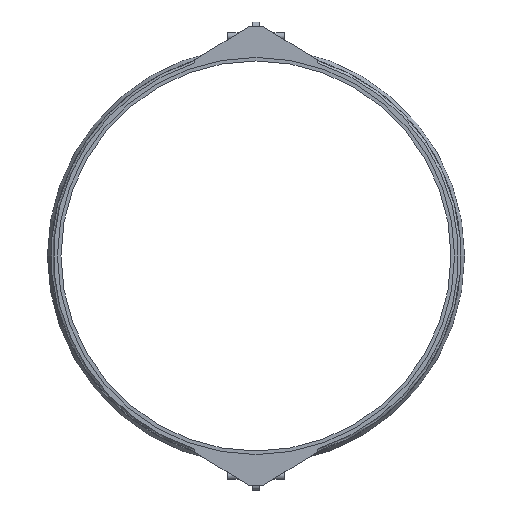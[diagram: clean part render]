
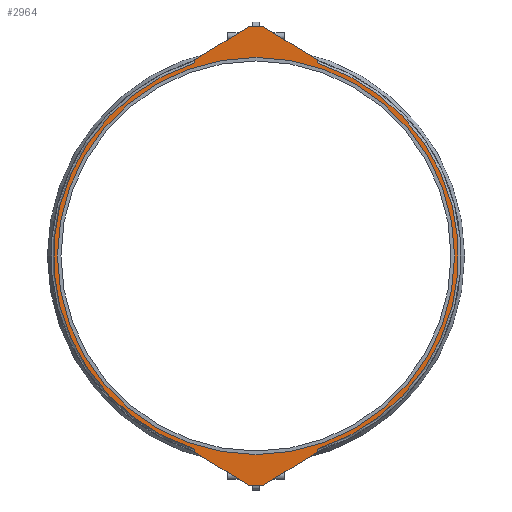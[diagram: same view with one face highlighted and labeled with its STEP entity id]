
A CAD part, left-side view. The second image highlights one B-rep face of the part: STEP entity #2964.
In plain terms, the highlighted planar face has unit normal (-1, 0, 0).
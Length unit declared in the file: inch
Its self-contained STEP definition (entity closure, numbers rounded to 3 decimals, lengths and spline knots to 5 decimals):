
#94=FACE_BOUND('',#530,.T.);
#198=PLANE('',#3249);
#353=FACE_OUTER_BOUND('',#529,.T.);
#529=EDGE_LOOP('',(#2592,#2593,#2594,#2595,#2596,#2597,#2598,#2599,#2600,
#2601,#2602,#2603,#2604,#2605,#2606,#2607,#2608,#2609,#2610,#2611));
#530=EDGE_LOOP('',(#2612,#2613));
#613=LINE('',#4323,#880);
#619=LINE('',#4339,#886);
#622=LINE('',#4349,#889);
#627=LINE('',#4360,#894);
#629=LINE('',#4385,#896);
#743=LINE('',#4844,#1010);
#754=LINE('',#4875,#1021);
#756=LINE('',#4882,#1023);
#760=LINE('',#4891,#1027);
#763=LINE('',#4899,#1030);
#880=VECTOR('',#3469,0.3937);
#886=VECTOR('',#3483,0.3937);
#889=VECTOR('',#3494,0.3937);
#894=VECTOR('',#3505,0.3937);
#896=VECTOR('',#3513,0.3937);
#1010=VECTOR('',#3837,0.3937);
#1021=VECTOR('',#3864,0.3937);
#1023=VECTOR('',#3872,0.3937);
#1027=VECTOR('',#3882,0.3937);
#1030=VECTOR('',#3891,0.3937);
#1085=CIRCLE('',#3048,0.063);
#1087=CIRCLE('',#3052,0.125);
#1088=CIRCLE('',#3055,0.125);
#1089=CIRCLE('',#3058,0.063);
#1092=CIRCLE('',#3064,21.425);
#1093=CIRCLE('',#3066,21.425);
#1135=CIRCLE('',#3174,0.063);
#1136=CIRCLE('',#3177,0.125);
#1137=CIRCLE('',#3180,0.125);
#1138=CIRCLE('',#3183,0.063);
#1173=CIRCLE('',#3247,21.);
#1174=CIRCLE('',#3248,21.);
#1246=VERTEX_POINT('',#4303);
#1247=VERTEX_POINT('',#4322);
#1250=VERTEX_POINT('',#4329);
#1251=VERTEX_POINT('',#4331);
#1253=VERTEX_POINT('',#4337);
#1255=VERTEX_POINT('',#4343);
#1256=VERTEX_POINT('',#4347);
#1258=VERTEX_POINT('',#4354);
#1259=VERTEX_POINT('',#4358);
#1261=VERTEX_POINT('',#4365);
#1264=VERTEX_POINT('',#4393);
#1265=VERTEX_POINT('',#4414);
#1372=VERTEX_POINT('',#4843);
#1384=VERTEX_POINT('',#4873);
#1385=VERTEX_POINT('',#4877);
#1386=VERTEX_POINT('',#4881);
#1387=VERTEX_POINT('',#4885);
#1388=VERTEX_POINT('',#4890);
#1389=VERTEX_POINT('',#4894);
#1390=VERTEX_POINT('',#4898);
#1433=VERTEX_POINT('',#5043);
#1434=VERTEX_POINT('',#5045);
#1537=EDGE_CURVE('',#1246,#1247,#613,.T.);
#1541=EDGE_CURVE('',#1250,#1251,#1085,.T.);
#1545=EDGE_CURVE('',#1253,#1250,#619,.T.);
#1548=EDGE_CURVE('',#1255,#1253,#1087,.T.);
#1550=EDGE_CURVE('',#1256,#1255,#622,.T.);
#1554=EDGE_CURVE('',#1258,#1256,#1088,.T.);
#1556=EDGE_CURVE('',#1259,#1258,#627,.T.);
#1557=EDGE_CURVE('',#1247,#1259,#1089,.T.);
#1560=EDGE_CURVE('',#1251,#1261,#629,.T.);
#1565=EDGE_CURVE('',#1246,#1264,#1092,.T.);
#1566=EDGE_CURVE('',#1265,#1261,#1093,.T.);
#1727=EDGE_CURVE('',#1372,#1265,#743,.T.);
#1743=EDGE_CURVE('',#1264,#1384,#754,.T.);
#1744=EDGE_CURVE('',#1385,#1372,#1135,.T.);
#1746=EDGE_CURVE('',#1386,#1385,#756,.T.);
#1748=EDGE_CURVE('',#1387,#1386,#1136,.T.);
#1751=EDGE_CURVE('',#1388,#1387,#760,.T.);
#1753=EDGE_CURVE('',#1389,#1388,#1137,.T.);
#1755=EDGE_CURVE('',#1390,#1389,#763,.T.);
#1757=EDGE_CURVE('',#1384,#1390,#1138,.T.);
#1826=EDGE_CURVE('',#1434,#1433,#1173,.T.);
#1827=EDGE_CURVE('',#1433,#1434,#1174,.T.);
#2592=ORIENTED_EDGE('',*,*,#1566,.T.);
#2593=ORIENTED_EDGE('',*,*,#1560,.F.);
#2594=ORIENTED_EDGE('',*,*,#1541,.F.);
#2595=ORIENTED_EDGE('',*,*,#1545,.F.);
#2596=ORIENTED_EDGE('',*,*,#1548,.F.);
#2597=ORIENTED_EDGE('',*,*,#1550,.F.);
#2598=ORIENTED_EDGE('',*,*,#1554,.F.);
#2599=ORIENTED_EDGE('',*,*,#1556,.F.);
#2600=ORIENTED_EDGE('',*,*,#1557,.F.);
#2601=ORIENTED_EDGE('',*,*,#1537,.F.);
#2602=ORIENTED_EDGE('',*,*,#1565,.T.);
#2603=ORIENTED_EDGE('',*,*,#1743,.T.);
#2604=ORIENTED_EDGE('',*,*,#1757,.T.);
#2605=ORIENTED_EDGE('',*,*,#1755,.T.);
#2606=ORIENTED_EDGE('',*,*,#1753,.T.);
#2607=ORIENTED_EDGE('',*,*,#1751,.T.);
#2608=ORIENTED_EDGE('',*,*,#1748,.T.);
#2609=ORIENTED_EDGE('',*,*,#1746,.T.);
#2610=ORIENTED_EDGE('',*,*,#1744,.T.);
#2611=ORIENTED_EDGE('',*,*,#1727,.T.);
#2612=ORIENTED_EDGE('',*,*,#1826,.T.);
#2613=ORIENTED_EDGE('',*,*,#1827,.T.);
#2964=ADVANCED_FACE('',(#353,#94),#198,.T.);
#3048=AXIS2_PLACEMENT_3D('',#4332,#3476,#3477);
#3052=AXIS2_PLACEMENT_3D('',#4345,#3489,#3490);
#3055=AXIS2_PLACEMENT_3D('',#4356,#3500,#3501);
#3058=AXIS2_PLACEMENT_3D('',#4362,#3508,#3509);
#3064=AXIS2_PLACEMENT_3D('',#4412,#3523,#3524);
#3066=AXIS2_PLACEMENT_3D('',#4415,#3527,#3528);
#3174=AXIS2_PLACEMENT_3D('',#4878,#3867,#3868);
#3177=AXIS2_PLACEMENT_3D('',#4886,#3876,#3877);
#3180=AXIS2_PLACEMENT_3D('',#4895,#3886,#3887);
#3183=AXIS2_PLACEMENT_3D('',#4902,#3895,#3896);
#3247=AXIS2_PLACEMENT_3D('',#5046,#4056,#4057);
#3248=AXIS2_PLACEMENT_3D('',#5047,#4058,#4059);
#3249=AXIS2_PLACEMENT_3D('',#5048,#4060,#4061);
#3469=DIRECTION('',(0.,0.,-1.));
#3476=DIRECTION('center_axis',(1.,0.,0.));
#3477=DIRECTION('ref_axis',(0.,-1.,0.));
#3483=DIRECTION('',(0.,0.85,0.527));
#3489=DIRECTION('center_axis',(1.,0.,0.));
#3490=DIRECTION('ref_axis',(0.,-0.527,0.85));
#3494=DIRECTION('',(0.,1.,0.));
#3500=DIRECTION('center_axis',(1.,0.,0.));
#3501=DIRECTION('ref_axis',(0.,0.,1.));
#3505=DIRECTION('',(0.,0.85,-0.527));
#3508=DIRECTION('center_axis',(1.,0.,0.));
#3509=DIRECTION('ref_axis',(0.,0.527,0.85));
#3513=DIRECTION('',(0.,0.,1.));
#3523=DIRECTION('center_axis',(-1.,0.,0.));
#3524=DIRECTION('ref_axis',(0.,0.,1.));
#3527=DIRECTION('center_axis',(-1.,0.,0.));
#3528=DIRECTION('ref_axis',(0.,0.,1.));
#3837=DIRECTION('',(0.,0.,-1.));
#3864=DIRECTION('',(0.,0.,1.));
#3867=DIRECTION('center_axis',(-1.,0.,0.));
#3868=DIRECTION('ref_axis',(0.,-1.,0.));
#3872=DIRECTION('',(0.,0.85,-0.527));
#3876=DIRECTION('center_axis',(-1.,0.,0.));
#3877=DIRECTION('ref_axis',(0.,-0.527,-0.85));
#3882=DIRECTION('',(0.,1.,0.));
#3886=DIRECTION('center_axis',(-1.,0.,0.));
#3887=DIRECTION('ref_axis',(0.,0.,-1.));
#3891=DIRECTION('',(0.,0.85,0.527));
#3895=DIRECTION('center_axis',(-1.,0.,0.));
#3896=DIRECTION('ref_axis',(0.,0.527,-0.85));
#4056=DIRECTION('center_axis',(1.,0.,0.));
#4057=DIRECTION('ref_axis',(0.,0.,-1.));
#4058=DIRECTION('center_axis',(1.,0.,0.));
#4059=DIRECTION('ref_axis',(0.,0.,-1.));
#4060=DIRECTION('center_axis',(-1.,0.,0.));
#4061=DIRECTION('ref_axis',(0.,0.,1.));
#4303=CARTESIAN_POINT('',(-3.25,-6.5,-20.41521));
#4322=CARTESIAN_POINT('',(-3.25,-6.5,-20.68014));
#4323=CARTESIAN_POINT('',(-3.25,-6.5,-20.41521));
#4329=CARTESIAN_POINT('',(-3.25,6.4702,-20.73368));
#4331=CARTESIAN_POINT('',(-3.25,6.5,-20.68014));
#4332=CARTESIAN_POINT('Origin',(-3.25,6.437,-20.68014));
#4337=CARTESIAN_POINT('',(-3.25,0.83027,-24.23123));
#4339=CARTESIAN_POINT('',(-3.25,0.83027,-24.23123));
#4343=CARTESIAN_POINT('',(-3.25,0.76439,-24.25));
#4345=CARTESIAN_POINT('Origin',(-3.25,0.76439,-24.125));
#4347=CARTESIAN_POINT('',(-3.25,-0.76439,-24.25));
#4349=CARTESIAN_POINT('',(-3.25,0.,-24.25));
#4354=CARTESIAN_POINT('',(-3.25,-0.83027,-24.23123));
#4356=CARTESIAN_POINT('Origin',(-3.25,-0.76439,-24.125));
#4358=CARTESIAN_POINT('',(-3.25,-6.4702,-20.73368));
#4360=CARTESIAN_POINT('',(-3.25,-6.4702,-20.73368));
#4362=CARTESIAN_POINT('Origin',(-3.25,-6.437,-20.68014));
#4365=CARTESIAN_POINT('',(-3.25,6.5,-20.41521));
#4385=CARTESIAN_POINT('',(-3.25,6.5,-20.68014));
#4393=CARTESIAN_POINT('',(-3.25,-6.5,20.41521));
#4412=CARTESIAN_POINT('Origin',(-3.25,0.,0.));
#4414=CARTESIAN_POINT('',(-3.25,6.5,20.41521));
#4415=CARTESIAN_POINT('Origin',(-3.25,0.,0.));
#4843=CARTESIAN_POINT('',(-3.25,6.5,20.68014));
#4844=CARTESIAN_POINT('',(-3.25,6.5,20.68014));
#4873=CARTESIAN_POINT('',(-3.25,-6.5,20.68014));
#4875=CARTESIAN_POINT('',(-3.25,-6.5,20.41521));
#4877=CARTESIAN_POINT('',(-3.25,6.4702,20.73368));
#4878=CARTESIAN_POINT('Origin',(-3.25,6.437,20.68014));
#4881=CARTESIAN_POINT('',(-3.25,0.83027,24.23123));
#4882=CARTESIAN_POINT('',(-3.25,0.83027,24.23123));
#4885=CARTESIAN_POINT('',(-3.25,0.76439,24.25));
#4886=CARTESIAN_POINT('Origin',(-3.25,0.76439,24.125));
#4890=CARTESIAN_POINT('',(-3.25,-0.76439,24.25));
#4891=CARTESIAN_POINT('',(-3.25,0.,24.25));
#4894=CARTESIAN_POINT('',(-3.25,-0.83027,24.23123));
#4895=CARTESIAN_POINT('Origin',(-3.25,-0.76439,24.125));
#4898=CARTESIAN_POINT('',(-3.25,-6.4702,20.73368));
#4899=CARTESIAN_POINT('',(-3.25,-6.4702,20.73368));
#4902=CARTESIAN_POINT('Origin',(-3.25,-6.437,20.68014));
#5043=CARTESIAN_POINT('',(-3.25,-21.,0.));
#5045=CARTESIAN_POINT('',(-3.25,21.,0.));
#5046=CARTESIAN_POINT('Origin',(-3.25,0.,0.));
#5047=CARTESIAN_POINT('Origin',(-3.25,0.,0.));
#5048=CARTESIAN_POINT('Origin',(-3.25,21.675,0.));
